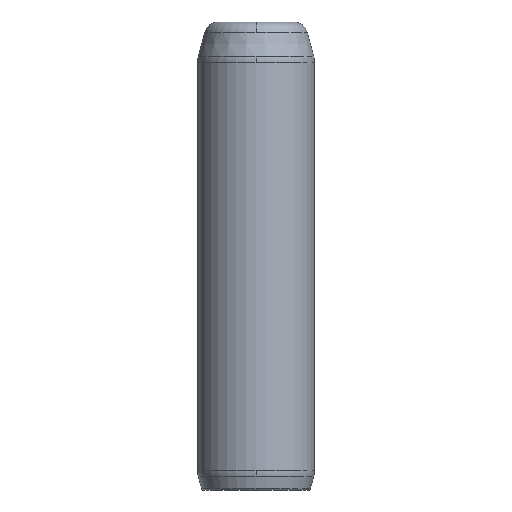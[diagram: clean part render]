
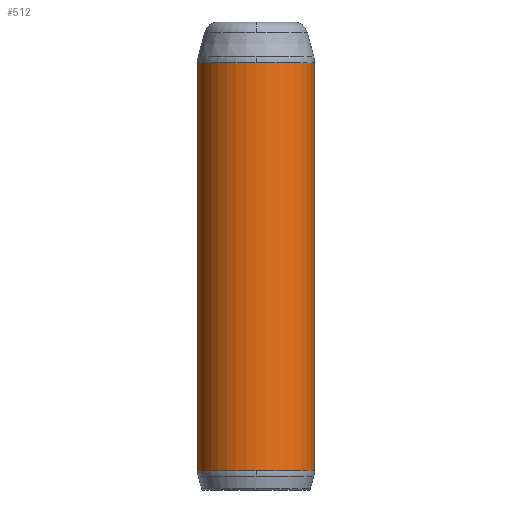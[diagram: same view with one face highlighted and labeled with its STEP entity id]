
A CAD part, front view. The second image highlights one B-rep face of the part: STEP entity #512.
In plain terms, the highlighted cylindrical face has radius 12.5 mm (diameter 25 mm), a partial arc.
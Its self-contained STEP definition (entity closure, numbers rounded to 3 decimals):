
#416=CARTESIAN_POINT('',(0.0,91.342,12.5));
#417=VERTEX_POINT('',#416);
#444=CARTESIAN_POINT('',(-12.5,91.342,0.));
#445=VERTEX_POINT('',#444);
#453=CARTESIAN_POINT('',(0.0,91.342,0.0));
#454=DIRECTION('',(0.0,1.0,0.0));
#455=DIRECTION('',(1.0,0.0,0.0));
#456=AXIS2_PLACEMENT_3D('',#453,#454,#455);
#457=CIRCLE('',#456,12.5);
#458=EDGE_CURVE('',#445,#417,#457,.T.);
#463=CARTESIAN_POINT('',(0.0,-0.201,0.0));
#464=DIRECTION('',(0.0,1.0,0.0));
#465=DIRECTION('',(1.0,0.0,0.0));
#466=AXIS2_PLACEMENT_3D('',#463,#464,#465);
#467=CYLINDRICAL_SURFACE('',#466,12.5);
#468=CARTESIAN_POINT('',(12.5,91.342,0.0));
#469=VERTEX_POINT('',#468);
#470=CARTESIAN_POINT('',(12.5,4.158,0.0));
#471=VERTEX_POINT('',#470);
#472=CARTESIAN_POINT('',(12.5,91.342,0.0));
#473=DIRECTION('',(0.0,-1.0,0.0));
#474=VECTOR('',#473,87.183);
#475=LINE('',#472,#474);
#476=EDGE_CURVE('',#469,#471,#475,.T.);
#477=ORIENTED_EDGE('',*,*,#476,.F.);
#478=CARTESIAN_POINT('',(0.0,91.342,0.0));
#479=DIRECTION('',(0.0,1.0,0.0));
#480=DIRECTION('',(1.0,0.0,0.0));
#481=AXIS2_PLACEMENT_3D('',#478,#479,#480);
#482=CIRCLE('',#481,12.5);
#483=EDGE_CURVE('',#417,#469,#482,.T.);
#484=ORIENTED_EDGE('',*,*,#483,.F.);
#485=ORIENTED_EDGE('',*,*,#458,.F.);
#486=CARTESIAN_POINT('',(-12.5,4.158,0.));
#487=VERTEX_POINT('',#486);
#488=CARTESIAN_POINT('',(-12.5,91.342,0.));
#489=DIRECTION('',(0.0,-1.0,0.0));
#490=VECTOR('',#489,87.183);
#491=LINE('',#488,#490);
#492=EDGE_CURVE('',#445,#487,#491,.T.);
#493=ORIENTED_EDGE('',*,*,#492,.T.);
#494=CARTESIAN_POINT('',(0.0,4.158,12.5));
#495=VERTEX_POINT('',#494);
#496=CARTESIAN_POINT('',(0.0,4.158,0.0));
#497=DIRECTION('',(0.0,1.0,0.0));
#498=DIRECTION('',(1.0,0.0,0.0));
#499=AXIS2_PLACEMENT_3D('',#496,#497,#498);
#500=CIRCLE('',#499,12.5);
#501=EDGE_CURVE('',#487,#495,#500,.T.);
#502=ORIENTED_EDGE('',*,*,#501,.T.);
#503=CARTESIAN_POINT('',(0.0,4.158,0.0));
#504=DIRECTION('',(0.0,1.0,0.0));
#505=DIRECTION('',(1.0,0.0,0.0));
#506=AXIS2_PLACEMENT_3D('',#503,#504,#505);
#507=CIRCLE('',#506,12.5);
#508=EDGE_CURVE('',#495,#471,#507,.T.);
#509=ORIENTED_EDGE('',*,*,#508,.T.);
#510=EDGE_LOOP('',(#477,#484,#485,#493,#502,#509));
#511=FACE_OUTER_BOUND('',#510,.T.);
#512=ADVANCED_FACE('',(#511),#467,.T.);
